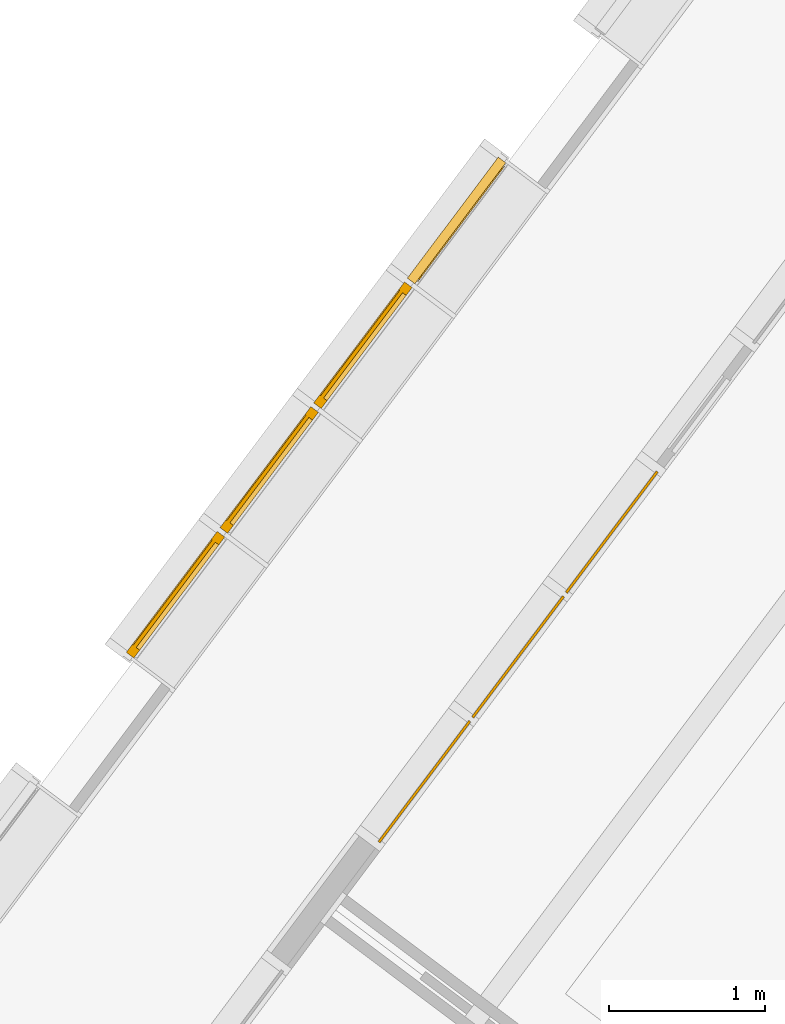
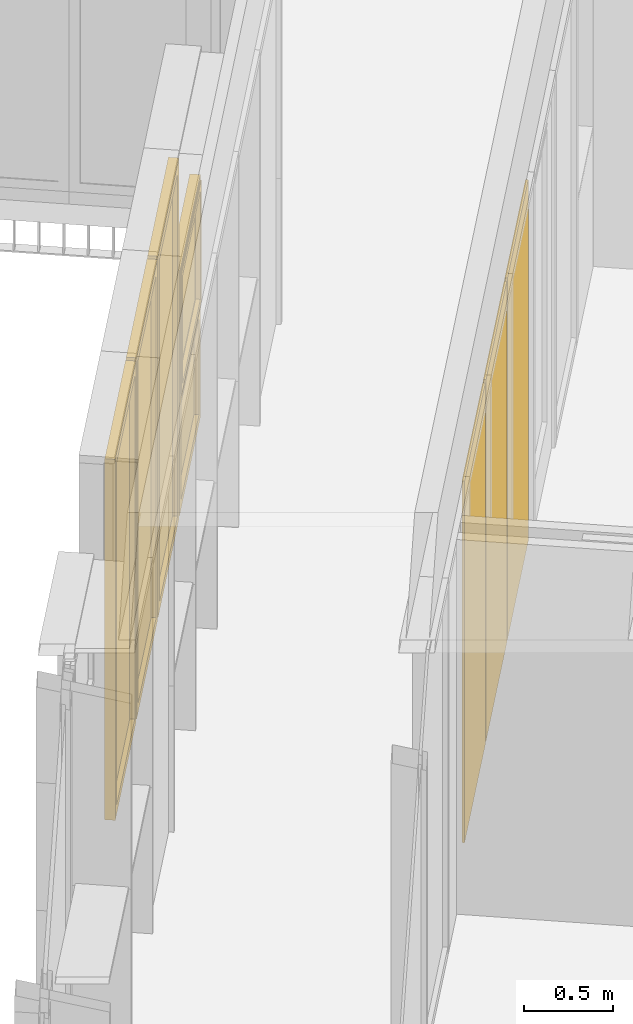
# One storey, part 191 of 243: 8 windows, 2 elements without a shape of their own.
"""IFC2X3 building model written with IfcOpenShell, lengths in metres."""

from ifc_helpers import new_model, entity, si_unit, converted_unit, derived_unit, direction, frame, origin, origin_2d_with_axis, place, context, subcontext, project, spatial, rectangle, extrude, faceted_brep, source, transform, mapped, material, material_list, type_object, type_shapes, element, aggregate, save


model = new_model("IFC2X3")

# Units and contexts
model_context = context("Model", 3, precision=1e-05, world=origin(), true_north=direction((6.123031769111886e-17, 1.0)))
body_context = subcontext(model_context, "Body", "Model", "MODEL_VIEW")
ifc_project = project(units=[si_unit("LENGTHUNIT", "METRE"), si_unit("AREAUNIT", "SQUARE_METRE"), si_unit("VOLUMEUNIT", "CUBIC_METRE"), converted_unit("PLANEANGLEUNIT", "DEGREE", entity("IfcRatioMeasure", 0.017453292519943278), si_unit("PLANEANGLEUNIT", "RADIAN"), dimensions=[0, 0, 0, 0, 0, 0, 0]), si_unit("MASSUNIT", "GRAM", prefix="KILO"), derived_unit("MASSDENSITYUNIT", [(si_unit("MASSUNIT", "GRAM", prefix="KILO"), 1), (si_unit("LENGTHUNIT", "METRE"), -3)]), derived_unit("IONCONCENTRATIONUNIT", [(si_unit("MASSUNIT", "GRAM", prefix="KILO"), 1), (si_unit("LENGTHUNIT", "METRE"), -3)]), derived_unit("MOMENTOFINERTIAUNIT", [(si_unit("LENGTHUNIT", "METRE"), 4)]), si_unit("TIMEUNIT", "SECOND"), si_unit("FREQUENCYUNIT", "HERTZ"), si_unit("THERMODYNAMICTEMPERATUREUNIT", "DEGREE_CELSIUS"), derived_unit("THERMALTRANSMITTANCEUNIT", [(si_unit("MASSUNIT", "GRAM", prefix="KILO"), 1), (si_unit("THERMODYNAMICTEMPERATUREUNIT", "KELVIN"), -1), (si_unit("TIMEUNIT", "SECOND"), -3)]), derived_unit("THERMALCONDUCTANCEUNIT", [(si_unit("MASSUNIT", "GRAM", prefix="KILO"), 1), (si_unit("THERMODYNAMICTEMPERATUREUNIT", "KELVIN"), -1), (si_unit("TIMEUNIT", "SECOND"), -3), (si_unit("LENGTHUNIT", "METRE"), 1)]), derived_unit("VOLUMETRICFLOWRATEUNIT", [(si_unit("LENGTHUNIT", "METRE"), 3), (si_unit("TIMEUNIT", "SECOND"), -1)]), derived_unit("MASSFLOWRATEUNIT", [(si_unit("MASSUNIT", "GRAM", prefix="KILO"), 1), (si_unit("TIMEUNIT", "SECOND"), -1)]), derived_unit("ROTATIONALFREQUENCYUNIT", [(si_unit("TIMEUNIT", "SECOND"), -1)]), si_unit("ELECTRICCURRENTUNIT", "AMPERE"), si_unit("ELECTRICVOLTAGEUNIT", "VOLT"), si_unit("POWERUNIT", "WATT"), si_unit("FORCEUNIT", "NEWTON", prefix="KILO"), si_unit("ILLUMINANCEUNIT", "LUX"), si_unit("LUMINOUSFLUXUNIT", "LUMEN"), si_unit("LUMINOUSINTENSITYUNIT", "CANDELA"), derived_unit("USERDEFINED", [(si_unit("MASSUNIT", "GRAM", prefix="KILO"), -1), (si_unit("LENGTHUNIT", "METRE"), -2), (si_unit("TIMEUNIT", "SECOND"), 3), (si_unit("LUMINOUSFLUXUNIT", "LUMEN"), 1)]), derived_unit("USERDEFINED", [(si_unit("MASSUNIT", "GRAM", prefix="KILO"), 1), (si_unit("TIMEUNIT", "SECOND"), -3), (si_unit("LENGTHUNIT", "METRE"), 3), (si_unit("ELECTRICCURRENTUNIT", "AMPERE"), -2)]), derived_unit("SOUNDPOWERUNIT", [(si_unit("MASSUNIT", "GRAM", prefix="KILO"), 1), (si_unit("TIMEUNIT", "SECOND"), -3), (si_unit("LENGTHUNIT", "METRE"), 2)]), derived_unit("SOUNDPRESSUREUNIT", [(si_unit("MASSUNIT", "GRAM", prefix="KILO"), 1), (si_unit("LENGTHUNIT", "METRE"), -1), (si_unit("TIMEUNIT", "SECOND"), -2)]), derived_unit("LINEARVELOCITYUNIT", [(si_unit("LENGTHUNIT", "METRE"), 1), (si_unit("TIMEUNIT", "SECOND"), -1)]), si_unit("PRESSUREUNIT", "PASCAL"), derived_unit("USERDEFINED", [(si_unit("MASSUNIT", "GRAM", prefix="KILO"), 1), (si_unit("LENGTHUNIT", "METRE"), -2), (si_unit("TIMEUNIT", "SECOND"), -2)]), derived_unit("LINEARFORCEUNIT", [(si_unit("MASSUNIT", "GRAM", prefix="KILO"), 1), (si_unit("TIMEUNIT", "SECOND"), -2)]), derived_unit("PLANARFORCEUNIT", [(si_unit("MASSUNIT", "GRAM", prefix="KILO"), 1), (si_unit("LENGTHUNIT", "METRE"), -1), (si_unit("TIMEUNIT", "SECOND"), -2)]), derived_unit("SPECIFICHEATCAPACITYUNIT", [(si_unit("THERMODYNAMICTEMPERATUREUNIT", "KELVIN"), -1), (si_unit("LENGTHUNIT", "METRE"), 2), (si_unit("TIMEUNIT", "SECOND"), -2)]), derived_unit("HEATINGVALUEUNIT", [(si_unit("LENGTHUNIT", "METRE"), 2), (si_unit("TIMEUNIT", "SECOND"), -2)]), derived_unit("VAPORPERMEABILITYUNIT", [(si_unit("LENGTHUNIT", "METRE"), -1), (si_unit("TIMEUNIT", "SECOND"), 1)]), derived_unit("DYNAMICVISCOSITYUNIT", [(si_unit("MASSUNIT", "GRAM", prefix="KILO"), 1), (si_unit("TIMEUNIT", "SECOND"), -1), (si_unit("LENGTHUNIT", "METRE"), -1)]), derived_unit("THERMALEXPANSIONCOEFFICIENTUNIT", [(si_unit("THERMODYNAMICTEMPERATUREUNIT", "KELVIN"), -1)]), derived_unit("MODULUSOFELASTICITYUNIT", [(si_unit("MASSUNIT", "GRAM", prefix="KILO"), 1), (si_unit("LENGTHUNIT", "METRE"), -1), (si_unit("TIMEUNIT", "SECOND"), -2)]), derived_unit("ISOTHERMALMOISTURECAPACITYUNIT", [(si_unit("LENGTHUNIT", "METRE"), 3), (si_unit("MASSUNIT", "GRAM", prefix="KILO"), -1)]), derived_unit("MOISTUREDIFFUSIVITYUNIT", [(si_unit("TIMEUNIT", "SECOND"), -1), (si_unit("LENGTHUNIT", "METRE"), 2)])], contexts=[model_context])

# Site, building, storey
site_placement = place(None, frame((0.0, 0.0, 235.0), z_axis=(0.0, 0.0, 1.0), x_axis=(-0.7996477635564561, 0.6004693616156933, 0.0)))
site = spatial("IfcSite", under=ifc_project, at=site_placement, Name="Default", CompositionType="ELEMENT")
building_placement = place(site_placement, origin())
building = spatial("IfcBuilding", under=site, at=building_placement, CompositionType="ELEMENT")
storey_placement = place(building_placement, origin())
storey = spatial("IfcBuildingStorey", under=building, at=storey_placement, Name="P0- Escola", CompositionType="ELEMENT", Elevation=0.0)

# Curtain wall, windows
curtain_wall_type_1 = type_object("IfcCurtainWallType", Name="Muro cortina:MC- INT- a1", PredefinedType="NOTDEFINED")
curtain_wall_1_placement = place(storey_placement, origin())
curtain_wall_1 = element("IfcCurtainWall", 1, at=curtain_wall_1_placement, inside=storey, type_object=curtain_wall_type_1, Name="Muro cortina:MC- INT- a1", ObjectType="Muro cortina:MC- INT- a1")
ifc_material_1 = material(Name="_Vidre")
window_style_1 = type_object("IfcWindowStyle", Name="MC- Fusta- vidre fix:MC- Fusta- vidre fix", ConstructionType="NOTDEFINED", OperationType="NOTDEFINED", ParameterTakesPrecedence=False, Sizeable=False, material=ifc_material_1)
shared_shape_1 = source(origin(), body_context, "Body", "SweptSolid", [
    extrude(rectangle(XDim=0.9699999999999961, YDim=0.015999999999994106, at=origin_2d_with_axis()), frame((0.0, 0.0, 0.0), z_axis=(0.0, 0.0, 1.0), x_axis=(-1.0, 0.0, 0.0)), (0.0, 0.0, 1.0), 2.475),
])
type_shapes(window_style_1, [shared_shape_1])
window_1_placement = place(curtain_wall_1_placement, frame((47.32014768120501, -30.91518997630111, 0.045000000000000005), z_axis=(0.0, 0.0, 1.0), x_axis=(0.0, -1.0, 0.0)))
window_1 = element("IfcWindow", 2, at=window_1_placement, type_object=window_style_1, material=ifc_material_1, Name="MC- Fusta- vidre fix:MC- Fusta- vidre fix", ObjectType="MC- Fusta- vidre fix:MC- Fusta- vidre fix", OverallHeight=2.475, OverallWidth=0.9699999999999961, context=body_context, shape_type="MappedRepresentation", body=[
    mapped(shared_shape_1, transform((0.0, 0.0, 0.0), scale=1.0)),
])
window_2_placement = place(curtain_wall_1_placement, frame((47.32014768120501, -31.91518997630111, 0.045000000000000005), z_axis=(0.0, 0.0, 1.0), x_axis=(0.0, -1.0, 0.0)))
window_2 = element("IfcWindow", 3, at=window_2_placement, type_object=window_style_1, material=ifc_material_1, Name="MC- Fusta- vidre fix:MC- Fusta- vidre fix", ObjectType="MC- Fusta- vidre fix:MC- Fusta- vidre fix", OverallHeight=2.475, OverallWidth=0.9699999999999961, context=body_context, shape_type="MappedRepresentation", body=[
    mapped(shared_shape_1, transform((0.0, 0.0, 0.0), scale=1.0)),
])
window_3_placement = place(curtain_wall_1_placement, frame((47.32014768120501, -32.91518997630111, 0.045000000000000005), z_axis=(0.0, 0.0, 1.0), x_axis=(0.0, -1.0, 0.0)))
window_3 = element("IfcWindow", 4, at=window_3_placement, type_object=window_style_1, material=ifc_material_1, Name="MC- Fusta- vidre fix:MC- Fusta- vidre fix", ObjectType="MC- Fusta- vidre fix:MC- Fusta- vidre fix", OverallHeight=2.475, OverallWidth=0.9699999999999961, context=body_context, shape_type="MappedRepresentation", body=[
    mapped(shared_shape_1, transform((0.0, 0.0, 0.0), scale=1.0)),
])
aggregate(curtain_wall_1, [window_1, window_2, window_3])

curtain_wall_type_2 = type_object("IfcCurtainWallType", Name="Muro cortina:MC- EXT- MC5", PredefinedType="NOTDEFINED")
curtain_wall_2_placement = place(storey_placement, origin())
curtain_wall_2 = element("IfcCurtainWall", 5, at=curtain_wall_2_placement, inside=storey, type_object=curtain_wall_type_2, Name="Muro cortina:MC- EXT- MC5", ObjectType="Muro cortina:MC- EXT- MC5")
ifc_material_2 = material(Name="_Alumini- T1- Perfil")
ifc_material_list = material_list([ifc_material_1, ifc_material_2])
window_style_2 = type_object("IfcWindowStyle", Name="MC- Alu- Conjunt vidre fix- 62x60 cm:MC- Alu- Conjunt vidre fix- 62x60 cm", ConstructionType="NOTDEFINED", OperationType="NOTDEFINED", ParameterTakesPrecedence=False, Sizeable=False, material=ifc_material_list)
shared_shape_2 = source(origin(), body_context, "Body", "Brep", [
    faceted_brep([(-0.43619328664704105, -0.007600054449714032, 0.048806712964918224), (0.43619328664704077, -0.007600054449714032, 0.048806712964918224), (0.43619328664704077, -0.03160022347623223, 0.048806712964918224), (-0.43619328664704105, -0.03160022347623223, 0.048806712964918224), (-0.43619328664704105, -0.007600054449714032, 2.422449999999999), (0.43619328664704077, -0.007600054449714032, 2.422449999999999), (0.43619328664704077, -0.03160022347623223, 2.422449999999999), (-0.43619328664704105, -0.03160022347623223, 2.422449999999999)], [[[0, 1, 2, 3]], [[4, 5, 1, 0]], [[5, 6, 2, 1]], [[6, 7, 3, 2]], [[7, 4, 0, 3]], [[4, 7, 6, 5]]]),
    faceted_brep([(-0.4849999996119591, -0.05999999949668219, 2.471449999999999), (-0.4849999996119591, 0.0, 2.471449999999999), (-0.4849999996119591, 0.0, 0.0), (-0.48499999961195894, -0.05999999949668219, 0.0), (-0.4221931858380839, 0.0, 2.408643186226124), (-0.4221931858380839, 0.0, 0.06280681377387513), (0.42219318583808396, 0.0, 0.06280681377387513), (0.422193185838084, 0.0, 2.408643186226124), (0.4849999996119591, 0.0, 2.471449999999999), (0.4849999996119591, 0.0, 0.0), (0.48499999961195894, -0.05999999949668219, 0.0), (0.4849999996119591, -0.05999999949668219, 2.471449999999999), (0.42219603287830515, -0.05999999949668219, 2.408646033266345), (0.42219603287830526, -0.05999999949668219, 0.06280396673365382), (-0.42219603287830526, -0.05999999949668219, 0.06280396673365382), (-0.42219603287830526, -0.05999999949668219, 2.4086460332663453), (-0.42219603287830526, -0.03160022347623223, 2.4086460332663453), (-0.4221960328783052, -0.03160022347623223, 0.06280396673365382), (0.4221960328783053, -0.03160022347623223, 0.06280396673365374), (0.42219603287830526, -0.03160022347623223, 2.4086460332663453), (0.43619328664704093, -0.03160022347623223, 2.422643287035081), (0.43619328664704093, -0.03160022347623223, 0.048806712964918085), (-0.4361932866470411, -0.03160022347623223, 0.04880671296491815), (-0.43619328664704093, -0.03160022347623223, 2.422643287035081), (-0.43619328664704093, -0.007600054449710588, 2.422643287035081), (-0.4361932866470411, -0.007600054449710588, 0.04880671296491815), (0.43619328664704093, -0.007600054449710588, 0.048806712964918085), (0.43619328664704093, -0.007600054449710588, 2.422643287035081), (0.42219318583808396, -0.007600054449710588, 2.408643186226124), (0.42219318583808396, -0.007600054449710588, 0.06280681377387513), (-0.42219318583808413, -0.007600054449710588, 0.06280681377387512), (-0.4221931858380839, -0.007600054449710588, 2.408643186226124)], [[[0, 1, 2, 3]], [[4, 5, 6, 7], [8, 9, 2, 1]], [[3, 2, 9, 10]], [[0, 3, 10, 11], [12, 13, 14, 15]], [[16, 15, 14, 17]], [[17, 14, 13, 18]], [[16, 17, 18, 19], [20, 21, 22, 23]], [[24, 23, 22, 25]], [[25, 22, 21, 26]], [[24, 25, 26, 27], [28, 29, 30, 31]], [[4, 31, 30, 5]], [[5, 30, 29, 6]], [[10, 9, 8, 11]], [[18, 13, 12, 19]], [[26, 21, 20, 27]], [[6, 29, 28, 7]], [[11, 8, 1, 0]], [[19, 12, 15, 16]], [[27, 20, 23, 24]], [[7, 28, 31, 4]]], outer=[[True], [False, True], [True], [True, False], [True], [True], [False, True], [True], [True], [True, False], [True], [True], [True], [True], [True], [True], [True], [True], [True], [True]]),
])
type_shapes(window_style_2, [shared_shape_2])
window_4_placement = place(curtain_wall_2_placement, frame((49.34514768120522, -31.915191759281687, 0.03229999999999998), z_axis=(0.0, 0.0, 1.0), x_axis=(0.0, -1.0, 0.0)))
window_4 = element("IfcWindow", 6, at=window_4_placement, type_object=window_style_2, material=ifc_material_list, Name="MC- Alu- Conjunt vidre fix- 62x60 cm:MC- Alu- Conjunt vidre fix- 62x60 cm", ObjectType="MC- Alu- Conjunt vidre fix- 62x60 cm:MC- Alu- Conjunt vidre fix- 62x60 cm", OverallHeight=2.471449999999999, OverallWidth=0.9699999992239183, context=body_context, shape_type="MappedRepresentation", body=[
    mapped(shared_shape_2, transform((0.0, 0.0, 0.0), scale=1.0)),
])
window_5_placement = place(curtain_wall_2_placement, frame((49.34514768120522, -32.91519175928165, 0.03229999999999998), z_axis=(0.0, 0.0, 1.0), x_axis=(0.0, -1.0, 0.0)))
window_5 = element("IfcWindow", 7, at=window_5_placement, type_object=window_style_2, material=ifc_material_list, Name="MC- Alu- Conjunt vidre fix- 62x60 cm:MC- Alu- Conjunt vidre fix- 62x60 cm", ObjectType="MC- Alu- Conjunt vidre fix- 62x60 cm:MC- Alu- Conjunt vidre fix- 62x60 cm", OverallHeight=2.471449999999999, OverallWidth=0.9699999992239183, context=body_context, shape_type="MappedRepresentation", body=[
    mapped(shared_shape_2, transform((0.0, 0.0, 0.0), scale=1.0)),
])
window_style_3 = type_object("IfcWindowStyle", Name="MC- Alu- Conjunt vidre fix- 62x60 cm:MC- Alu- Conjunt vidre fix- 62x60 cm", ConstructionType="NOTDEFINED", OperationType="NOTDEFINED", ParameterTakesPrecedence=False, Sizeable=False, material=ifc_material_list)
shared_shape_3 = source(origin(), body_context, "Body", "Brep", [
    faceted_brep([(-0.43619328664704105, -0.007600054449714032, 0.048806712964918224), (0.43619328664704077, -0.007600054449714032, 0.048806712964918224), (0.43619328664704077, -0.03160022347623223, 0.048806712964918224), (-0.43619328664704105, -0.03160022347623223, 0.048806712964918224), (-0.43619328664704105, -0.007600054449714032, 0.7387000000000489), (0.43619328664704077, -0.007600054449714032, 0.7387000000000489), (0.43619328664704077, -0.03160022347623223, 0.7387000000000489), (-0.43619328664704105, -0.03160022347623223, 0.7387000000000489)], [[[0, 1, 2, 3]], [[4, 5, 1, 0]], [[5, 6, 2, 1]], [[6, 7, 3, 2]], [[7, 4, 0, 3]], [[4, 7, 6, 5]]]),
    faceted_brep([(-0.4849999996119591, -0.05999999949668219, 0.7877000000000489), (-0.4849999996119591, 0.0, 0.7877000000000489), (-0.4849999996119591, 0.0, 0.0), (-0.4849999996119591, -0.05999999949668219, 0.0), (-0.422193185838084, 0.0, 0.7248931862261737), (-0.4221931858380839, 0.0, 0.06280681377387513), (0.42219318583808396, 0.0, 0.06280681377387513), (0.42219318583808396, 0.0, 0.7248931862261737), (0.4849999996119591, 0.0, 0.7877000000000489), (0.4849999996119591, 0.0, 0.0), (0.4849999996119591, -0.05999999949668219, 0.0), (0.4849999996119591, -0.05999999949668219, 0.7877000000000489), (0.4221960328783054, -0.05999999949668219, 0.7248960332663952), (0.4221960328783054, -0.05999999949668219, 0.0628039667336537), (-0.4221960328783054, -0.05999999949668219, 0.0628039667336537), (-0.4221960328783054, -0.05999999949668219, 0.7248960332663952), (-0.4221960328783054, -0.03160022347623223, 0.7248960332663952), (-0.4221960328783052, -0.03160022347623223, 0.06280396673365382), (0.4221960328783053, -0.03160022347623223, 0.06280396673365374), (0.42219603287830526, -0.03160022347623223, 0.7248960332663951), (0.43619328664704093, -0.03160022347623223, 0.7388932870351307), (0.43619328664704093, -0.03160022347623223, 0.048806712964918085), (-0.43619328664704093, -0.03160022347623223, 0.04880671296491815), (-0.43619328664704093, -0.03160022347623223, 0.7388932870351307), (-0.43619328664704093, -0.007600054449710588, 0.7388932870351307), (-0.43619328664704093, -0.007600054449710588, 0.04880671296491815), (0.43619328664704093, -0.007600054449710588, 0.048806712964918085), (0.43619328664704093, -0.007600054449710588, 0.7388932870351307), (0.42219318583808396, -0.007600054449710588, 0.7248931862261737), (0.42219318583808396, -0.007600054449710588, 0.06280681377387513), (-0.42219318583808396, -0.007600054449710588, 0.06280681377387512), (-0.42219318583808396, -0.007600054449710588, 0.7248931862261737)], [[[0, 1, 2, 3]], [[4, 5, 6, 7], [8, 9, 2, 1]], [[3, 2, 9, 10]], [[0, 3, 10, 11], [12, 13, 14, 15]], [[16, 15, 14, 17]], [[17, 14, 13, 18]], [[16, 17, 18, 19], [20, 21, 22, 23]], [[24, 23, 22, 25]], [[25, 22, 21, 26]], [[24, 25, 26, 27], [28, 29, 30, 31]], [[4, 31, 30, 5]], [[5, 30, 29, 6]], [[10, 9, 8, 11]], [[18, 13, 12, 19]], [[26, 21, 20, 27]], [[6, 29, 28, 7]], [[11, 8, 1, 0]], [[19, 12, 15, 16]], [[27, 20, 23, 24]], [[7, 28, 31, 4]]], outer=[[True], [False, True], [True], [True, False], [True], [True], [False, True], [True], [True], [True, False], [True], [True], [True], [True], [True], [True], [True], [True], [True], [True]]),
])
type_shapes(window_style_3, [shared_shape_3])
window_6_placement = place(curtain_wall_2_placement, frame((49.345147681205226, -33.91519175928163, 0.03229999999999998), z_axis=(0.0, 0.0, 1.0), x_axis=(0.0, -1.0, 0.0)))
window_6 = element("IfcWindow", 8, at=window_6_placement, type_object=window_style_3, material=ifc_material_list, Name="MC- Alu- Conjunt vidre fix- 62x60 cm:MC- Alu- Conjunt vidre fix- 62x60 cm", ObjectType="MC- Alu- Conjunt vidre fix- 62x60 cm:MC- Alu- Conjunt vidre fix- 62x60 cm", OverallHeight=0.7877000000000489, OverallWidth=0.9699999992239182, context=body_context, shape_type="MappedRepresentation", body=[
    mapped(shared_shape_3, transform((0.0, 0.0, 0.0), scale=1.0)),
])
window_style_4 = type_object("IfcWindowStyle", Name="MC- Alu- Conjunt vidre fix- 62x60 cm:MC- Alu- Conjunt vidre fix- 62x60 cm", ConstructionType="NOTDEFINED", OperationType="NOTDEFINED", ParameterTakesPrecedence=False, Sizeable=False, material=ifc_material_list)
shared_shape_4 = source(origin(), body_context, "Body", "Brep", [
    faceted_brep([(0.43619328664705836, -0.007600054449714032, 0.048806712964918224), (0.43619328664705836, -0.03160022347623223, 0.048806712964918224), (-0.4361932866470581, -0.03160022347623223, 0.048806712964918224), (-0.4361932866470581, -0.007600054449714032, 0.048806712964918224), (0.43619328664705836, -0.007600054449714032, 2.422449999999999), (-0.4361932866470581, -0.007600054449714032, 2.422449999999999), (-0.4361932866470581, -0.03160022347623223, 2.422449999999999), (0.43619328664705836, -0.03160022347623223, 2.422449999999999)], [[[0, 1, 2, 3]], [[4, 0, 3, 5]], [[5, 3, 2, 6]], [[6, 2, 1, 7]], [[7, 1, 0, 4]], [[4, 5, 6, 7]]]),
    faceted_brep([(0.48499999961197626, -0.05999999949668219, 2.471449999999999), (0.48499999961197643, -0.05999999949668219, 0.0), (0.48499999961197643, 0.0, 0.0), (0.48499999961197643, 0.0, 2.471449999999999), (-0.48499999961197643, 0.0, 2.471449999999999), (-0.48499999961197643, 0.0, 0.0), (0.4221931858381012, 0.0, 2.408643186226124), (-0.4221931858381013, 0.0, 2.408643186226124), (-0.4221931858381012, 0.0, 0.06280681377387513), (0.4221931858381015, 0.0, 0.06280681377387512), (-0.48499999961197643, -0.05999999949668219, 0.0), (-0.4849999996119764, -0.05999999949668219, 2.471449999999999), (-0.4221960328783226, -0.05999999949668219, 2.4086460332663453), (0.4221960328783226, -0.05999999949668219, 2.4086460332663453), (0.4221960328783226, -0.05999999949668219, 0.06280396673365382), (-0.4221960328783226, -0.05999999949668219, 0.06280396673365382), (0.42219603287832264, -0.03160022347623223, 2.4086460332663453), (0.4221960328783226, -0.03160022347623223, 0.06280396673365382), (-0.4221960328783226, -0.03160022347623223, 0.06280396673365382), (-0.4221960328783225, -0.03160022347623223, 2.4086460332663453), (-0.43619328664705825, -0.03160022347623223, 2.422643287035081), (0.43619328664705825, -0.03160022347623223, 2.422643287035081), (0.43619328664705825, -0.03160022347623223, 0.048806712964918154), (-0.43619328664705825, -0.03160022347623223, 0.04880671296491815), (0.43619328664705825, -0.007600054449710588, 2.422643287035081), (0.4361932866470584, -0.007600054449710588, 0.04880671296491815), (-0.43619328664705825, -0.007600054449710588, 0.048806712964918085), (-0.43619328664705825, -0.007600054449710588, 2.422643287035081), (-0.4221931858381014, -0.007600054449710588, 2.408643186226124), (0.4221931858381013, -0.007600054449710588, 2.408643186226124), (0.4221931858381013, -0.007600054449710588, 0.06280681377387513), (-0.4221931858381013, -0.007600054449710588, 0.06280681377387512)], [[[0, 1, 2, 3]], [[4, 3, 2, 5], [6, 7, 8, 9]], [[1, 10, 5, 2]], [[0, 11, 10, 1], [12, 13, 14, 15]], [[16, 17, 14, 13]], [[17, 18, 15, 14]], [[16, 19, 18, 17], [20, 21, 22, 23]], [[24, 25, 22, 21]], [[25, 26, 23, 22]], [[24, 27, 26, 25], [28, 29, 30, 31]], [[6, 9, 30, 29]], [[9, 8, 31, 30]], [[10, 11, 4, 5]], [[18, 19, 12, 15]], [[26, 27, 20, 23]], [[8, 7, 28, 31]], [[11, 0, 3, 4]], [[19, 16, 13, 12]], [[27, 24, 21, 20]], [[7, 6, 29, 28]]], outer=[[True], [True, False], [True], [True, False], [True], [True], [False, True], [True], [True], [True, False], [True], [True], [True], [True], [True], [True], [True], [True], [True], [True]]),
])
type_shapes(window_style_4, [shared_shape_4])
window_7_placement = place(curtain_wall_2_placement, frame((49.34514768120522, -30.915191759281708, 0.03229999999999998), z_axis=(0.0, 0.0, 1.0), x_axis=(0.0, -1.0, 0.0)))
window_7 = element("IfcWindow", 9, at=window_7_placement, type_object=window_style_4, material=ifc_material_list, Name="MC- Alu- Conjunt vidre fix- 62x60 cm:MC- Alu- Conjunt vidre fix- 62x60 cm", ObjectType="MC- Alu- Conjunt vidre fix- 62x60 cm:MC- Alu- Conjunt vidre fix- 62x60 cm", OverallHeight=2.471449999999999, OverallWidth=0.969999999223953, context=body_context, shape_type="MappedRepresentation", body=[
    mapped(shared_shape_4, transform((0.0, 0.0, 0.0), scale=1.0)),
])
window_style_5 = type_object("IfcWindowStyle", Name="MC- Alu- Conjunt finestra basculant- 68x68 cm:MC- Alu- Conjunt finestra basculant- 68x68 cm", ConstructionType="NOTDEFINED", OperationType="NOTDEFINED", ParameterTakesPrecedence=False, Sizeable=False, material=ifc_material_list)
shared_shape_5 = source(origin(), body_context, "Body", "Brep", [
    faceted_brep([(-0.43291170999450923, -0.03559830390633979, 0.051999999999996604), (-0.43291170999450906, -0.011598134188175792, 0.051999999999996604), (0.43291170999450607, -0.011598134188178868, 0.051999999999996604), (0.43291170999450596, -0.03559830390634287, 0.051999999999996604), (-0.43291170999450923, -0.03559830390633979, 0.8228027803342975), (-0.4329117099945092, -0.011598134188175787, 0.8228027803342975), (0.43291170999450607, -0.011598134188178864, 0.8228027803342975), (0.43291170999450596, -0.03559830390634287, 0.8228027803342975)], [[[0, 1, 2, 3]], [[4, 5, 1, 0]], [[5, 6, 2, 1]], [[6, 7, 3, 2]], [[7, 4, 0, 3]], [[4, 7, 6, 5]]]),
    faceted_brep([(0.4172108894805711, -0.009998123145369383, 0.8071019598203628), (0.4172108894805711, -0.007998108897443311, 0.8071019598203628), (0.4172108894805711, -0.007998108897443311, 0.06789804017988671), (0.4172108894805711, -0.009998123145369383, 0.06789804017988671), (0.44610892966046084, -0.007998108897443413, 0.8360000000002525), (0.44610892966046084, -0.007998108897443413, 0.03899999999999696), (-0.44610892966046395, -0.007998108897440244, 0.03899999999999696), (-0.44610892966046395, -0.007998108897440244, 0.8360000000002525), (-0.4172108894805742, -0.007998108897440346, 0.8071019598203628), (-0.4172108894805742, -0.007998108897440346, 0.06789804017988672), (-0.4172108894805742, -0.009998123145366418, 0.06789804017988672), (-0.4172108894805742, -0.009998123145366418, 0.8071019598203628), (-0.4329117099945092, -0.00999812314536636, 0.8228027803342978), (-0.4329117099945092, -0.009998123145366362, 0.05219721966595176), (0.43291170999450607, -0.009998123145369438, 0.052197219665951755), (0.43291170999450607, -0.009998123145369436, 0.8228027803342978), (0.4329117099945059, -0.04079986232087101, 0.8228027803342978), (0.4329117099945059, -0.04079986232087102, 0.052197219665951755), (-0.4329117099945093, -0.04079986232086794, 0.05219721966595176), (-0.4329117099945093, -0.04079986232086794, 0.8228027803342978), (-0.41721088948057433, -0.040799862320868, 0.8071019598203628), (-0.41721088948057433, -0.040799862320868, 0.06789804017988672), (0.41721088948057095, -0.04079986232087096, 0.06789804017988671), (0.41721088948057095, -0.04079986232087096, 0.8071019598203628), (0.41721088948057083, -0.06800005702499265, 0.8071019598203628), (0.4172108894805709, -0.06800005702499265, 0.06789804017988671), (-0.4172108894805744, -0.0680000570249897, 0.06789804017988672), (-0.4172108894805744, -0.0680000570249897, 0.8071019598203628), (-0.4636128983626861, -0.06800005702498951, 0.8535039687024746), (-0.4636128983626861, -0.06800005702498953, 0.021496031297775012), (0.4636128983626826, -0.06800005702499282, 0.021496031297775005), (0.4636128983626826, -0.06800005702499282, 0.8535039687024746), (0.4636128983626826, -0.0645000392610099, 0.8535039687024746), (0.4636128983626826, -0.0645000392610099, 0.021496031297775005), (-0.4636128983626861, -0.06450003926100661, 0.021496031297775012), (-0.4636128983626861, -0.06450003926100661, 0.8535039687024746), (-0.44610892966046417, -0.06450003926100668, 0.8360000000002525), (-0.44610892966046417, -0.06450003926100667, 0.03899999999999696), (0.4461089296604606, -0.06450003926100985, 0.038999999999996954), (0.4461089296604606, -0.06450003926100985, 0.8360000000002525)], [[[0, 1, 2, 3]], [[4, 5, 6, 7], [8, 9, 2, 1]], [[3, 2, 9, 10]], [[0, 3, 10, 11], [12, 13, 14, 15]], [[16, 15, 14, 17]], [[17, 14, 13, 18]], [[16, 17, 18, 19], [20, 21, 22, 23]], [[24, 23, 22, 25]], [[25, 22, 21, 26]], [[24, 25, 26, 27], [28, 29, 30, 31]], [[32, 31, 30, 33]], [[33, 30, 29, 34]], [[32, 33, 34, 35], [36, 37, 38, 39]], [[4, 39, 38, 5]], [[5, 38, 37, 6]], [[10, 9, 8, 11]], [[18, 13, 12, 19]], [[26, 21, 20, 27]], [[34, 29, 28, 35]], [[6, 37, 36, 7]], [[11, 8, 1, 0]], [[19, 12, 15, 16]], [[27, 20, 23, 24]], [[35, 28, 31, 32]], [[7, 36, 39, 4]]], outer=[[True], [True, False], [True], [False, True], [True], [True], [True, False], [True], [True], [False, True], [True], [True], [True, False], [True], [True], [True], [True], [True], [True], [True], [True], [True], [True], [True], [True]]),
    faceted_brep([(-0.42219318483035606, 0.0, 0.8121931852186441), (-0.42219318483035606, -0.0040000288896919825, 0.8121931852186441), (-0.422193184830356, -0.0040000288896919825, 0.06280681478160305), (-0.42219318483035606, 0.0, 0.06280681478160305), (-0.4575998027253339, -0.0040000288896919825, 0.847599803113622), (-0.4575998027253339, -0.0040000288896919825, 0.027400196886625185), (0.4575998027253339, -0.0040000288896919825, 0.027400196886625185), (0.4575998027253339, -0.0040000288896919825, 0.847599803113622), (0.422193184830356, -0.0040000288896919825, 0.812193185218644), (0.42219318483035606, -0.0040000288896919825, 0.06280681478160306), (0.42219318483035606, 0.0, 0.06280681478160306), (0.42219318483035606, 0.0, 0.8121931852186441), (0.4849999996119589, 0.0, 0.8750000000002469), (0.48499999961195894, 0.0, 0.0), (-0.4849999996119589, 0.0, 0.0), (-0.48499999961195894, 0.0, 0.8750000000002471), (-0.48499999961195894, -0.05999999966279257, 0.8750000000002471), (-0.48499999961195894, -0.05999999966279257, 0.0), (0.48499999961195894, -0.05999999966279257, 0.0), (0.48499999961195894, -0.05999999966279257, 0.8750000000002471), (0.45759980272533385, -0.05999999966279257, 0.8475998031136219), (0.4575998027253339, -0.05999999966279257, 0.027400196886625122), (-0.45759980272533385, -0.05999999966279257, 0.027400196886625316), (-0.4575998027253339, -0.05999999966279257, 0.847599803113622)], [[[0, 1, 2, 3]], [[4, 5, 6, 7], [8, 9, 2, 1]], [[3, 2, 9, 10]], [[0, 3, 10, 11], [12, 13, 14, 15]], [[16, 15, 14, 17]], [[17, 14, 13, 18]], [[16, 17, 18, 19], [20, 21, 22, 23]], [[4, 23, 22, 5]], [[5, 22, 21, 6]], [[10, 9, 8, 11]], [[18, 13, 12, 19]], [[6, 21, 20, 7]], [[11, 8, 1, 0]], [[19, 12, 15, 16]], [[7, 20, 23, 4]]], outer=[[True], [True, False], [True], [False, True], [True], [True], [True, False], [True], [True], [True], [True], [True], [True], [True], [True]]),
])
type_shapes(window_style_5, [shared_shape_5])
window_8_placement = place(curtain_wall_2_placement, frame((49.345147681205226, -33.91519175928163, 0.8200000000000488), z_axis=(0.0, 0.0, 1.0), x_axis=(0.0, -1.0, 0.0)))
window_8 = element("IfcWindow", 10, at=window_8_placement, type_object=window_style_5, material=ifc_material_list, Name="MC- Alu- Conjunt finestra basculant- 68x68 cm:MC- Alu- Conjunt finestra basculant- 68x68 cm", ObjectType="MC- Alu- Conjunt finestra basculant- 68x68 cm:MC- Alu- Conjunt finestra basculant- 68x68 cm", OverallHeight=0.8750000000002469, OverallWidth=0.9699999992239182, context=body_context, shape_type="MappedRepresentation", body=[
    mapped(shared_shape_5, transform((0.0, 0.0, 0.0), scale=1.0)),
])
aggregate(curtain_wall_2, [window_7, window_4, window_5, window_6, window_8])

save(model, "model.ifc")
